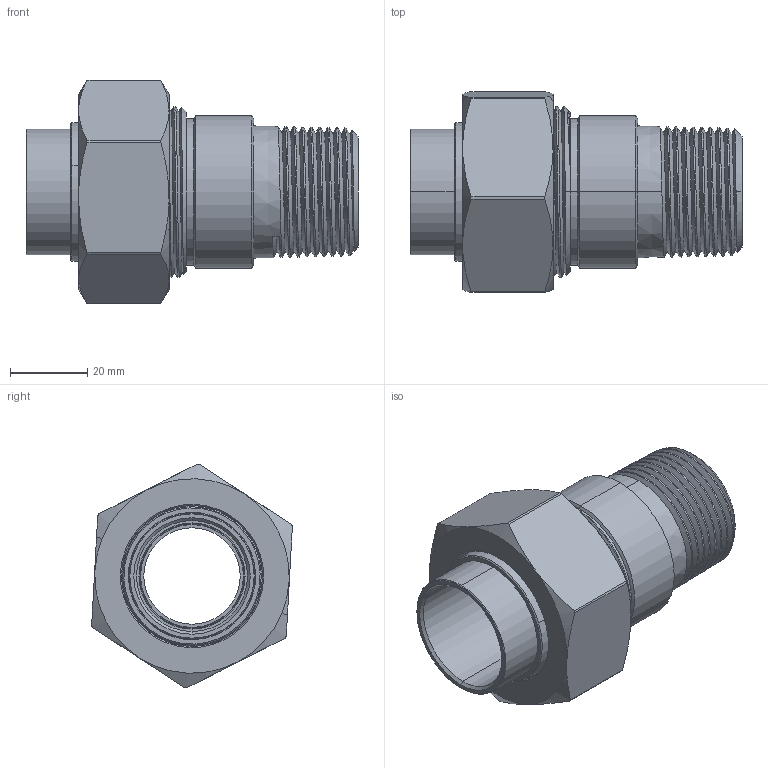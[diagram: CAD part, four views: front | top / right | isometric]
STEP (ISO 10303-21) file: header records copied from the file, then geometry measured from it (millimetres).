
FILE_DESCRIPTION (( 'STEP AP203' ), '1' );
FILE_NAME ('701-306.STEP', '2022-03-30T03:57:54', ( '' ), ( '' ), 'SwSTEP 2.0', 'SolidWorks 2012', '' );
FILE_SCHEMA (( 'CONFIG_CONTROL_DESIGN' ));
Length unit declared in the file: millimetre
Products named in the file (6): 701-306; 肣杶; 鞠褒簽; 呿蹋杶; 菜え; 1俋挴諉芛
Assembly tree (5 placements, depth 2):
  701-306
    1俋挴諉芛
    鞠褒簽
    菜え
    呿蹋杶
    肣杶
Bounding box: 86 x 52 x 57.94 mm (x, y, z)
Volume: 66263.7 mm3; surface area: 38071 mm2
Topology: 5 solids, 5 shells, 163 faces, 399 edges, 255 vertices
Faces by surface type: cylinder 65, cone 62, plane 27, bspline 7, torus 2
Entity records: 10574 total; most frequent: CARTESIAN_POINT 6331, ORIENTED_EDGE 798, DIRECTION 716, EDGE_CURVE 399, AXIS2_PLACEMENT_3D 288, VERTEX_POINT 255, EDGE_LOOP 182, FACE_OUTER_BOUND 163
